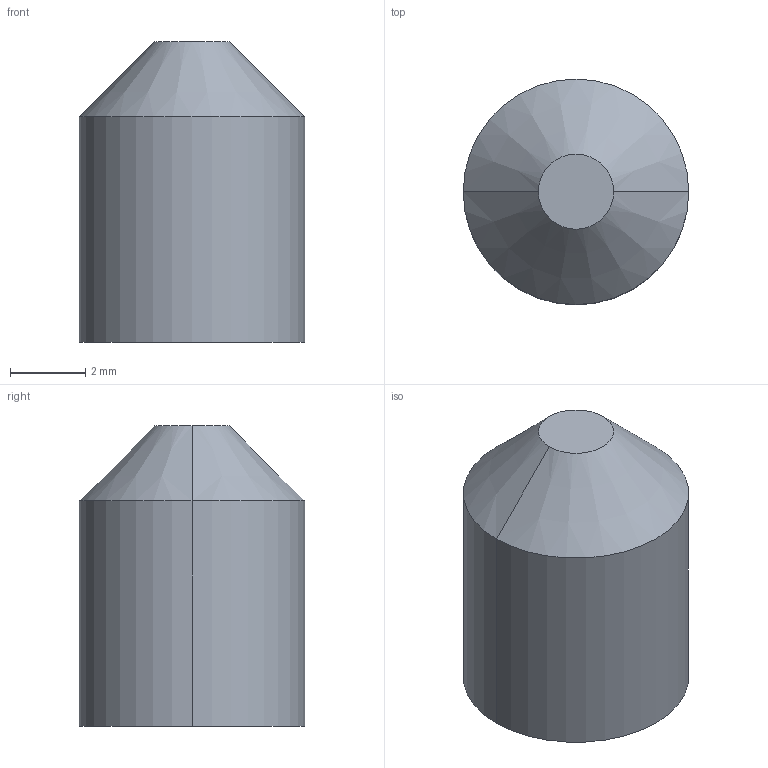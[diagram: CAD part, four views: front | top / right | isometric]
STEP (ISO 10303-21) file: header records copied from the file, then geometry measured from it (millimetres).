
FILE_DESCRIPTION (( 'STEP AP203' ), '1' );
FILE_NAME ('5079.STEP', '2016-04-23T06:52:59', ( '' ), ( '' ), 'SwSTEP 2.0', 'SolidWorks 2014', '' );
FILE_SCHEMA (( 'CONFIG_CONTROL_DESIGN' ));
Length unit declared in the file: millimetre
Products named in the file (1): 5079
Bounding box: 6 x 6 x 8 mm (x, y, z)
Volume: 173.5 mm3; surface area: 211.2 mm2
Topology: 1 solids, 1 shells, 13 faces, 28 edges, 18 vertices
Faces by surface type: plane 9, cone 2, cylinder 2
Entity records: 429 total; most frequent: DIRECTION 62, CARTESIAN_POINT 60, ORIENTED_EDGE 56, EDGE_CURVE 28, LINE 22, VECTOR 22, AXIS2_PLACEMENT_3D 20, VERTEX_POINT 18
